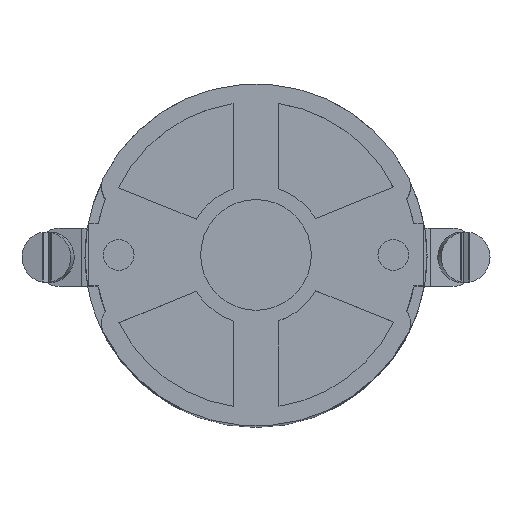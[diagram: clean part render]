
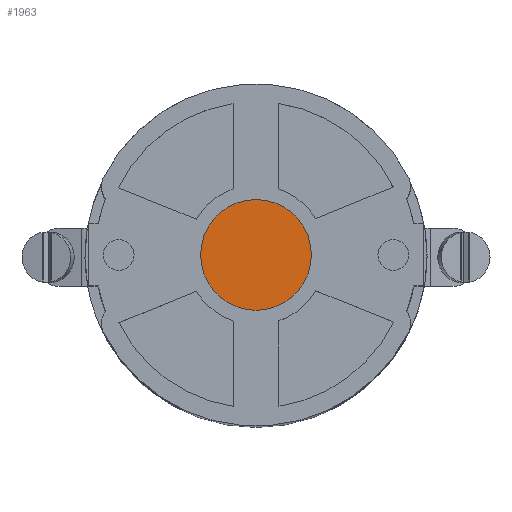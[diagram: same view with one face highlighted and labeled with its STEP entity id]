
A CAD part, top view. The second image highlights one B-rep face of the part: STEP entity #1963.
In plain terms, the highlighted planar face has unit normal (0, 0, 1).
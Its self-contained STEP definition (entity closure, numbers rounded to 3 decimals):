
#1963=ADVANCED_FACE('',(#4206),#3113,.T.);
#3113=PLANE('',#25117);
#4206=FACE_OUTER_BOUND('',#5384,.T.);
#5384=EDGE_LOOP('',(#14932));
#14932=ORIENTED_EDGE('',*,*,#22182,.F.);
#19073=VERTEX_POINT('',#38317);
#22182=EDGE_CURVE('',#19073,#19073,#23549,.T.);
#23549=CIRCLE('',#25116,6.15);
#25116=AXIS2_PLACEMENT_3D('',#38316,#30176,#30177);
#25117=AXIS2_PLACEMENT_3D('',#38318,#30178,#30179);
#30176=DIRECTION('',(0.,0.,-1.));
#30177=DIRECTION('',(1.,0.,0.));
#30178=DIRECTION('',(0.,0.,1.));
#30179=DIRECTION('',(1.,0.,0.));
#38316=CARTESIAN_POINT('',(0.,0.,89.3));
#38317=CARTESIAN_POINT('',(6.15,0.,89.3));
#38318=CARTESIAN_POINT('',(0.,0.,89.3));
